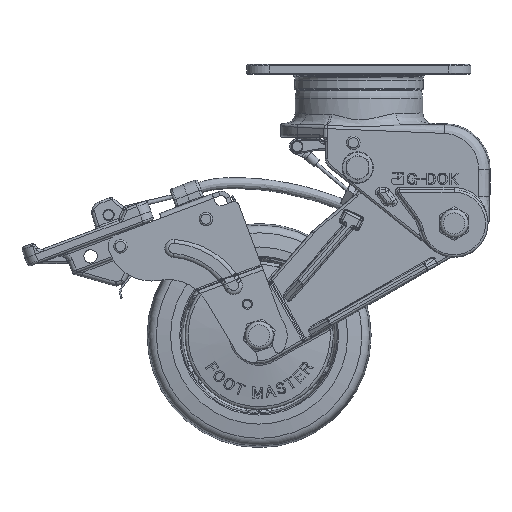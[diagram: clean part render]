
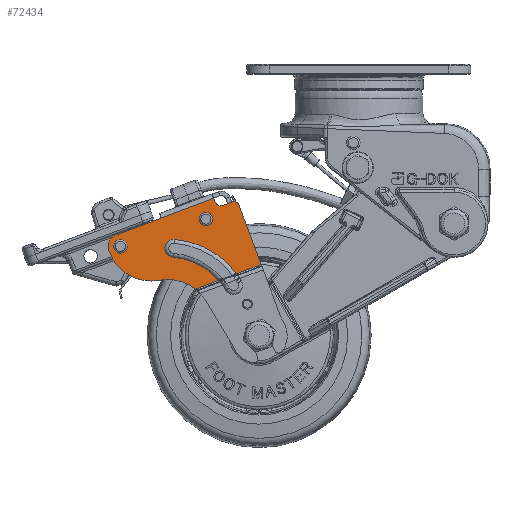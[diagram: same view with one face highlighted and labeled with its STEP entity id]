
A CAD part, front view. The second image highlights one B-rep face of the part: STEP entity #72434.
In plain terms, the highlighted planar face has unit normal (0, -1, 0).
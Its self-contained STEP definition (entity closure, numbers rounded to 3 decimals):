
#3681=CIRCLE('',#77694,2.25);
#3692=CIRCLE('',#77709,38.);
#3693=CIRCLE('',#77710,38.);
#3694=CIRCLE('',#77711,2.);
#3695=CIRCLE('',#77712,3.);
#3696=CIRCLE('',#77713,5.5);
#3697=CIRCLE('',#77714,20.);
#3698=CIRCLE('',#77715,20.);
#3699=CIRCLE('',#77716,30.);
#3700=CIRCLE('',#77717,4.);
#3701=CIRCLE('',#77718,2.25);
#6167=FACE_BOUND('',#14971,.T.);
#6168=FACE_BOUND('',#14972,.T.);
#10621=FACE_OUTER_BOUND('',#14970,.T.);
#14970=EDGE_LOOP('',(#50257,#50258,#50259,#50260,#50261,#50262,#50263,#50264,
#50265,#50266,#50267,#50268,#50269,#50270,#50271,#50272,#50273));
#14971=EDGE_LOOP('',(#50274));
#14972=EDGE_LOOP('',(#50275));
#19443=LINE('',#126592,#23874);
#19444=LINE('',#126594,#23875);
#19445=LINE('',#126598,#23876);
#19446=LINE('',#126602,#23877);
#19447=LINE('',#126604,#23878);
#19448=LINE('',#126606,#23879);
#19449=LINE('',#126610,#23880);
#19450=LINE('',#126616,#23881);
#23874=VECTOR('',#88407,10.);
#23875=VECTOR('',#88408,8.587);
#23876=VECTOR('',#88411,4.474);
#23877=VECTOR('',#88414,3.5);
#23878=VECTOR('',#88415,10.);
#23879=VECTOR('',#88416,21.526);
#23880=VECTOR('',#88419,10.);
#23881=VECTOR('',#88424,10.);
#29012=VERTEX_POINT('',#126543);
#29031=VERTEX_POINT('',#126586);
#29032=VERTEX_POINT('',#126587);
#29033=VERTEX_POINT('',#126589);
#29034=VERTEX_POINT('',#126591);
#29035=VERTEX_POINT('',#126593);
#29036=VERTEX_POINT('',#126595);
#29037=VERTEX_POINT('',#126597);
#29038=VERTEX_POINT('',#126599);
#29039=VERTEX_POINT('',#126601);
#29040=VERTEX_POINT('',#126603);
#29041=VERTEX_POINT('',#126605);
#29042=VERTEX_POINT('',#126607);
#29043=VERTEX_POINT('',#126609);
#29044=VERTEX_POINT('',#126611);
#29045=VERTEX_POINT('',#126613);
#29046=VERTEX_POINT('',#126615);
#29047=VERTEX_POINT('',#126617);
#29048=VERTEX_POINT('',#126620);
#36756=EDGE_CURVE('',#29012,#29012,#3681,.T.);
#36775=EDGE_CURVE('',#29031,#29032,#3692,.T.);
#36776=EDGE_CURVE('',#29032,#29033,#3693,.T.);
#36777=EDGE_CURVE('',#29033,#29034,#19443,.T.);
#36778=EDGE_CURVE('',#29035,#29034,#19444,.T.);
#36779=EDGE_CURVE('',#29036,#29035,#3694,.T.);
#36780=EDGE_CURVE('',#29037,#29036,#19445,.T.);
#36781=EDGE_CURVE('',#29038,#29037,#3695,.T.);
#36782=EDGE_CURVE('',#29039,#29038,#19446,.T.);
#36783=EDGE_CURVE('',#29040,#29039,#19447,.T.);
#36784=EDGE_CURVE('',#29041,#29040,#19448,.T.);
#36785=EDGE_CURVE('',#29042,#29041,#3696,.T.);
#36786=EDGE_CURVE('',#29043,#29042,#19449,.T.);
#36787=EDGE_CURVE('',#29044,#29043,#3697,.T.);
#36788=EDGE_CURVE('',#29044,#29045,#3698,.T.);
#36789=EDGE_CURVE('',#29045,#29046,#19450,.T.);
#36790=EDGE_CURVE('',#29046,#29047,#3699,.T.);
#36791=EDGE_CURVE('',#29047,#29031,#3700,.T.);
#36792=EDGE_CURVE('',#29048,#29048,#3701,.T.);
#50257=ORIENTED_EDGE('',*,*,#36775,.T.);
#50258=ORIENTED_EDGE('',*,*,#36776,.T.);
#50259=ORIENTED_EDGE('',*,*,#36777,.T.);
#50260=ORIENTED_EDGE('',*,*,#36778,.F.);
#50261=ORIENTED_EDGE('',*,*,#36779,.F.);
#50262=ORIENTED_EDGE('',*,*,#36780,.F.);
#50263=ORIENTED_EDGE('',*,*,#36781,.F.);
#50264=ORIENTED_EDGE('',*,*,#36782,.F.);
#50265=ORIENTED_EDGE('',*,*,#36783,.F.);
#50266=ORIENTED_EDGE('',*,*,#36784,.F.);
#50267=ORIENTED_EDGE('',*,*,#36785,.F.);
#50268=ORIENTED_EDGE('',*,*,#36786,.F.);
#50269=ORIENTED_EDGE('',*,*,#36787,.F.);
#50270=ORIENTED_EDGE('',*,*,#36788,.T.);
#50271=ORIENTED_EDGE('',*,*,#36789,.T.);
#50272=ORIENTED_EDGE('',*,*,#36790,.T.);
#50273=ORIENTED_EDGE('',*,*,#36791,.T.);
#50274=ORIENTED_EDGE('',*,*,#36792,.F.);
#50275=ORIENTED_EDGE('',*,*,#36756,.F.);
#65767=PLANE('',#77708);
#72434=ADVANCED_FACE('',(#10621,#6167,#6168),#65767,.F.);
#77694=AXIS2_PLACEMENT_3D('',#126545,#88365,#88366);
#77708=AXIS2_PLACEMENT_3D('',#126585,#88401,#88402);
#77709=AXIS2_PLACEMENT_3D('',#126588,#88403,#88404);
#77710=AXIS2_PLACEMENT_3D('',#126590,#88405,#88406);
#77711=AXIS2_PLACEMENT_3D('',#126596,#88409,#88410);
#77712=AXIS2_PLACEMENT_3D('',#126600,#88412,#88413);
#77713=AXIS2_PLACEMENT_3D('',#126608,#88417,#88418);
#77714=AXIS2_PLACEMENT_3D('',#126612,#88420,#88421);
#77715=AXIS2_PLACEMENT_3D('',#126614,#88422,#88423);
#77716=AXIS2_PLACEMENT_3D('',#126618,#88425,#88426);
#77717=AXIS2_PLACEMENT_3D('',#126619,#88427,#88428);
#77718=AXIS2_PLACEMENT_3D('',#126621,#88429,#88430);
#88365=DIRECTION('center_axis',(0.,-1.,0.));
#88366=DIRECTION('ref_axis',(0.,0.,-1.));
#88401=DIRECTION('center_axis',(0.,1.,0.));
#88402=DIRECTION('ref_axis',(-0.936,0.,-0.351));
#88403=DIRECTION('center_axis',(0.,1.,0.));
#88404=DIRECTION('ref_axis',(0.861,0.,0.508));
#88405=DIRECTION('center_axis',(0.,1.,0.));
#88406=DIRECTION('ref_axis',(0.861,0.,0.508));
#88407=DIRECTION('',(0.936,0.,0.351));
#88408=DIRECTION('',(0.351,0.,-0.936));
#88409=DIRECTION('center_axis',(0.,1.,0.));
#88410=DIRECTION('ref_axis',(0.936,0.,0.351));
#88411=DIRECTION('',(0.936,0.,0.351));
#88412=DIRECTION('center_axis',(0.,-1.,0.));
#88413=DIRECTION('ref_axis',(0.936,0.,0.351));
#88414=DIRECTION('',(0.351,0.,-0.936));
#88415=DIRECTION('',(0.936,0.,0.351));
#88416=DIRECTION('',(0.936,0.,0.351));
#88417=DIRECTION('center_axis',(0.,1.,0.));
#88418=DIRECTION('ref_axis',(0.936,0.,0.351));
#88419=DIRECTION('',(-0.351,0.,0.936));
#88420=DIRECTION('center_axis',(0.,1.,0.));
#88421=DIRECTION('ref_axis',(0.936,0.,0.351));
#88422=DIRECTION('center_axis',(0.,1.,0.));
#88423=DIRECTION('ref_axis',(0.861,0.,0.508));
#88424=DIRECTION('',(0.936,0.,0.351));
#88425=DIRECTION('center_axis',(0.,-1.,0.));
#88426=DIRECTION('ref_axis',(-0.861,0.,-0.508));
#88427=DIRECTION('center_axis',(0.,1.,0.));
#88428=DIRECTION('ref_axis',(0.078,0.,0.997));
#88429=DIRECTION('center_axis',(0.,-1.,0.));
#88430=DIRECTION('ref_axis',(0.,0.,-1.));
#126543=CARTESIAN_POINT('',(-105.644,-26.,-83.31));
#126545=CARTESIAN_POINT('Origin',(-106.434,-26.,-81.203));
#126585=CARTESIAN_POINT('Origin',(-84.175,-26.,-39.473));
#126586=CARTESIAN_POINT('',(-82.283,-26.,-78.086));
#126587=CARTESIAN_POINT('',(-54.916,-26.,-93.056));
#126588=CARTESIAN_POINT('Origin',(-85.229,-26.,-115.972));
#126589=CARTESIAN_POINT('',(-54.609,-26.,-93.468));
#126590=CARTESIAN_POINT('Origin',(-85.229,-26.,-115.972));
#126591=CARTESIAN_POINT('',(-43.579,-26.,-89.332));
#126592=CARTESIAN_POINT('',(-43.579,-26.,-89.332));
#126593=CARTESIAN_POINT('',(-53.648,-26.,-62.479));
#126594=CARTESIAN_POINT('',(-53.648,-26.,-62.479));
#126595=CARTESIAN_POINT('',(-56.223,-26.,-61.308));
#126596=CARTESIAN_POINT('Origin',(-55.52,-26.,-63.181));
#126597=CARTESIAN_POINT('',(-60.412,-26.,-62.879));
#126598=CARTESIAN_POINT('',(-60.412,-26.,-62.879));
#126599=CARTESIAN_POINT('',(-64.274,-26.,-61.123));
#126600=CARTESIAN_POINT('Origin',(-61.465,-26.,-60.07));
#126601=CARTESIAN_POINT('',(-64.8,-26.,-59.719));
#126602=CARTESIAN_POINT('',(-65.503,-26.,-57.846));
#126603=CARTESIAN_POINT('',(-88.209,-26.,-68.496));
#126604=CARTESIAN_POINT('',(-85.654,-26.,-67.538));
#126605=CARTESIAN_POINT('',(-108.365,-26.,-76.053));
#126606=CARTESIAN_POINT('',(-108.365,-26.,-76.053));
#126607=CARTESIAN_POINT('',(-111.584,-26.,-83.134));
#126608=CARTESIAN_POINT('Origin',(-106.434,-26.,-81.203));
#126609=CARTESIAN_POINT('',(-111.376,-26.,-83.688));
#126610=CARTESIAN_POINT('',(-108.073,-26.,-92.498));
#126611=CARTESIAN_POINT('',(-88.939,-26.,-96.319));
#126612=CARTESIAN_POINT('Origin',(-92.649,-26.,-76.666));
#126613=CARTESIAN_POINT('',(-72.812,-26.,-100.293));
#126614=CARTESIAN_POINT('Origin',(-85.229,-26.,-115.972));
#126615=CARTESIAN_POINT('',(-62.477,-26.,-96.418));
#126616=CARTESIAN_POINT('',(-43.579,-26.,-89.332));
#126617=CARTESIAN_POINT('',(-82.903,-26.,-86.062));
#126618=CARTESIAN_POINT('Origin',(-85.229,-26.,-115.972));
#126619=CARTESIAN_POINT('Origin',(-82.593,-26.,-82.074));
#126620=CARTESIAN_POINT('',(-67.484,-26.,-71.152));
#126621=CARTESIAN_POINT('Origin',(-68.273,-26.,-69.045));
